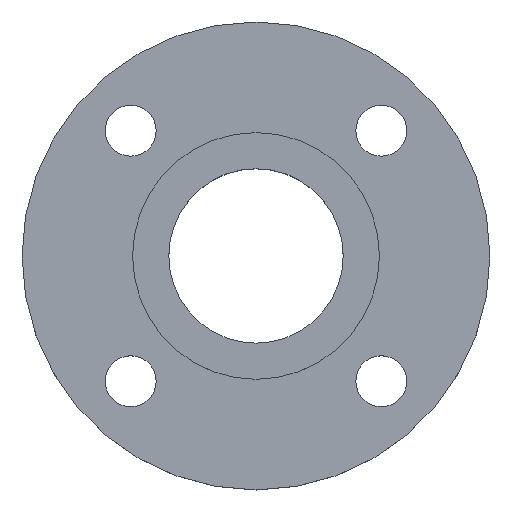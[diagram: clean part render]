
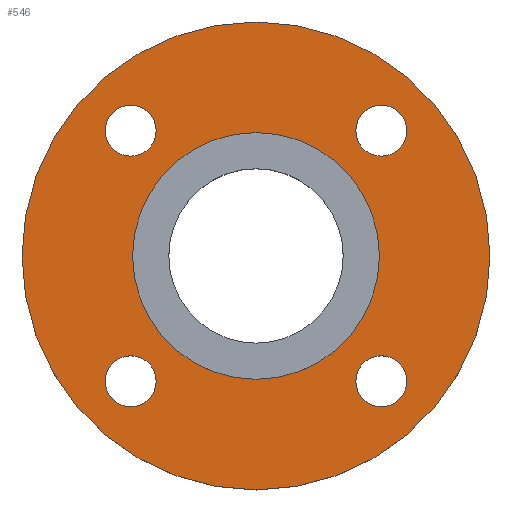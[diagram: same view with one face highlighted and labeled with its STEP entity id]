
A CAD part, top view. The second image highlights one B-rep face of the part: STEP entity #546.
In plain terms, the highlighted planar face has unit normal (0, 0, 1).
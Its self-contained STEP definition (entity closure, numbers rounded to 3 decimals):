
#11 = DIRECTION ( 'NONE',  ( -1., 0., 0. ) ) ;
#12 = DIRECTION ( 'NONE',  ( 0., 0., -1. ) ) ;
#13 = CARTESIAN_POINT ( 'NONE',  ( 0., 0., -4.5 ) ) ;
#42 = DIRECTION ( 'NONE',  ( 1., 0., 0. ) ) ;
#43 = DIRECTION ( 'NONE',  ( 0., 0., -1. ) ) ;
#45 = CIRCLE ( 'NONE', #46, 9. ) ;
#46 = AXIS2_PLACEMENT_3D ( 'NONE', #281, #279, #278 ) ;
#48 = CARTESIAN_POINT ( 'NONE',  ( -44.194, -44.194, -4.5 ) ) ;
#66 = DIRECTION ( 'NONE',  ( 1., 0., 0. ) ) ;
#68 = DIRECTION ( 'NONE',  ( 0., 0., -1. ) ) ;
#69 = CARTESIAN_POINT ( 'NONE',  ( -44.194, 44.194, -4.5 ) ) ;
#70 = DIRECTION ( 'NONE',  ( 1., 0., 0. ) ) ;
#71 = DIRECTION ( 'NONE',  ( 0., 0., 1. ) ) ;
#72 = CARTESIAN_POINT ( 'NONE',  ( 43.5, 0., -4.5 ) ) ;
#73 = PLANE ( 'NONE',  #141 ) ;
#75 = FACE_OUTER_BOUND ( 'NONE', #441, .T. ) ;
#76 = FACE_BOUND ( 'NONE', #419, .T. ) ;
#78 = FACE_BOUND ( 'NONE', #383, .T. ) ;
#81 = FACE_BOUND ( 'NONE', #389, .T. ) ;
#82 = CIRCLE ( 'NONE', #84, 9. ) ;
#83 = FACE_BOUND ( 'NONE', #373, .T. ) ;
#84 = AXIS2_PLACEMENT_3D ( 'NONE', #202, #201, #200 ) ;
#85 = FACE_BOUND ( 'NONE', #382, .T. ) ;
#99 = CIRCLE ( 'NONE', #105, 9. ) ;
#105 = AXIS2_PLACEMENT_3D ( 'NONE', #174, #173, #172 ) ;
#109 = DIRECTION ( 'NONE',  ( -1., 0., 0. ) ) ;
#110 = DIRECTION ( 'NONE',  ( 0., 0., -1. ) ) ;
#111 = CARTESIAN_POINT ( 'NONE',  ( 0., 0., -4.5 ) ) ;
#112 = DIRECTION ( 'NONE',  ( -1., 0., 0. ) ) ;
#113 = DIRECTION ( 'NONE',  ( 0., 0., -1. ) ) ;
#115 = CARTESIAN_POINT ( 'NONE',  ( 0., 0., -4.5 ) ) ;
#117 = CIRCLE ( 'NONE', #118, 82.5 ) ;
#118 = AXIS2_PLACEMENT_3D ( 'NONE', #115, #113, #112 ) ;
#119 = CIRCLE ( 'NONE', #126, 82.5 ) ;
#120 = CARTESIAN_POINT ( 'NONE',  ( -82.5, 0., -4.5 ) ) ;
#121 = CARTESIAN_POINT ( 'NONE',  ( -35.194, 44.194, -4.5 ) ) ;
#122 = CARTESIAN_POINT ( 'NONE',  ( -53.194, 44.194, -4.5 ) ) ;
#126 = AXIS2_PLACEMENT_3D ( 'NONE', #111, #110, #109 ) ;
#132 = CARTESIAN_POINT ( 'NONE',  ( 35.194, -44.194, -4.5 ) ) ;
#141 = AXIS2_PLACEMENT_3D ( 'NONE', #72, #71, #70 ) ;
#143 = CARTESIAN_POINT ( 'NONE',  ( 82.5, 0., -4.5 ) ) ;
#144 = CARTESIAN_POINT ( 'NONE',  ( 35.194, 44.194, -4.5 ) ) ;
#146 = CIRCLE ( 'NONE', #153, 9. ) ;
#147 = CARTESIAN_POINT ( 'NONE',  ( 53.194, -44.194, -4.5 ) ) ;
#151 = EDGE_CURVE ( 'NONE', #463, #472, #313, .T. ) ;
#153 = AXIS2_PLACEMENT_3D ( 'NONE', #69, #68, #66 ) ;
#157 = CIRCLE ( 'NONE', #160, 9. ) ;
#159 = CARTESIAN_POINT ( 'NONE',  ( 43.5, 0., -4.5 ) ) ;
#160 = AXIS2_PLACEMENT_3D ( 'NONE', #48, #43, #42 ) ;
#166 = CARTESIAN_POINT ( 'NONE',  ( -35.194, -44.194, -4.5 ) ) ;
#169 = CARTESIAN_POINT ( 'NONE',  ( 53.194, 44.194, -4.5 ) ) ;
#172 = DIRECTION ( 'NONE',  ( 1., 0., 0. ) ) ;
#173 = DIRECTION ( 'NONE',  ( 0., 0., -1. ) ) ;
#174 = CARTESIAN_POINT ( 'NONE',  ( 44.194, -44.194, -4.5 ) ) ;
#186 = CIRCLE ( 'NONE', #188, 43.5 ) ;
#188 = AXIS2_PLACEMENT_3D ( 'NONE', #13, #12, #11 ) ;
#190 = EDGE_CURVE ( 'NONE', #486, #484, #288, .T. ) ;
#200 = DIRECTION ( 'NONE',  ( 1., 0., 0. ) ) ;
#201 = DIRECTION ( 'NONE',  ( 0., 0., -1. ) ) ;
#202 = CARTESIAN_POINT ( 'NONE',  ( -44.194, -44.194, -4.5 ) ) ;
#207 = CIRCLE ( 'NONE', #209, 43.5 ) ;
#209 = AXIS2_PLACEMENT_3D ( 'NONE', #297, #549, #401 ) ;
#220 = EDGE_CURVE ( 'NONE', #472, #463, #246, .T. ) ;
#223 = CARTESIAN_POINT ( 'NONE',  ( -53.194, -44.194, -4.5 ) ) ;
#245 = AXIS2_PLACEMENT_3D ( 'NONE', #333, #331, #329 ) ;
#246 = CIRCLE ( 'NONE', #245, 9. ) ;
#268 = CARTESIAN_POINT ( 'NONE',  ( -43.5, 0., -4.5 ) ) ;
#278 = DIRECTION ( 'NONE',  ( 1., 0., 0. ) ) ;
#279 = DIRECTION ( 'NONE',  ( 0., 0., -1. ) ) ;
#281 = CARTESIAN_POINT ( 'NONE',  ( 44.194, -44.194, -4.5 ) ) ;
#287 = AXIS2_PLACEMENT_3D ( 'NONE', #380, #347, #352 ) ;
#288 = CIRCLE ( 'NONE', #287, 9. ) ;
#297 = CARTESIAN_POINT ( 'NONE',  ( 0., 0., -4.5 ) ) ;
#308 = AXIS2_PLACEMENT_3D ( 'NONE', #351, #426, #393 ) ;
#313 = CIRCLE ( 'NONE', #308, 9. ) ;
#329 = DIRECTION ( 'NONE',  ( 1., 0., 0. ) ) ;
#331 = DIRECTION ( 'NONE',  ( 0., 0., -1. ) ) ;
#333 = CARTESIAN_POINT ( 'NONE',  ( 44.194, 44.194, -4.5 ) ) ;
#347 = DIRECTION ( 'NONE',  ( 0., 0., -1. ) ) ;
#351 = CARTESIAN_POINT ( 'NONE',  ( 44.194, 44.194, -4.5 ) ) ;
#352 = DIRECTION ( 'NONE',  ( 1., 0., 0. ) ) ;
#361 = EDGE_CURVE ( 'NONE', #471, #479, #45, .T. ) ;
#373 = EDGE_LOOP ( 'NONE', ( #535, #536 ) ) ;
#380 = CARTESIAN_POINT ( 'NONE',  ( -44.194, 44.194, -4.5 ) ) ;
#382 = EDGE_LOOP ( 'NONE', ( #533, #534 ) ) ;
#383 = EDGE_LOOP ( 'NONE', ( #541, #542 ) ) ;
#389 = EDGE_LOOP ( 'NONE', ( #538, #540 ) ) ;
#393 = DIRECTION ( 'NONE',  ( 1., 0., 0. ) ) ;
#401 = DIRECTION ( 'NONE',  ( -1., 0., 0. ) ) ;
#406 = VERTEX_POINT ( 'NONE', #268 ) ;
#419 = EDGE_LOOP ( 'NONE', ( #557, #560 ) ) ;
#425 = VERTEX_POINT ( 'NONE', #223 ) ;
#426 = DIRECTION ( 'NONE',  ( 0., 0., -1. ) ) ;
#441 = EDGE_LOOP ( 'NONE', ( #561, #562 ) ) ;
#442 = EDGE_CURVE ( 'NONE', #464, #425, #82, .T. ) ;
#457 = EDGE_CURVE ( 'NONE', #479, #471, #99, .T. ) ;
#463 = VERTEX_POINT ( 'NONE', #169 ) ;
#464 = VERTEX_POINT ( 'NONE', #166 ) ;
#466 = VERTEX_POINT ( 'NONE', #159 ) ;
#471 = VERTEX_POINT ( 'NONE', #147 ) ;
#472 = VERTEX_POINT ( 'NONE', #144 ) ;
#473 = VERTEX_POINT ( 'NONE', #143 ) ;
#479 = VERTEX_POINT ( 'NONE', #132 ) ;
#484 = VERTEX_POINT ( 'NONE', #122 ) ;
#486 = VERTEX_POINT ( 'NONE', #121 ) ;
#488 = VERTEX_POINT ( 'NONE', #120 ) ;
#497 = EDGE_CURVE ( 'NONE', #473, #488, #117, .T. ) ;
#504 = EDGE_CURVE ( 'NONE', #488, #473, #119, .T. ) ;
#533 = ORIENTED_EDGE ( 'NONE', *, *, #361, .T. ) ;
#534 = ORIENTED_EDGE ( 'NONE', *, *, #457, .T. ) ;
#535 = ORIENTED_EDGE ( 'NONE', *, *, #442, .T. ) ;
#536 = ORIENTED_EDGE ( 'NONE', *, *, #552, .T. ) ;
#538 = ORIENTED_EDGE ( 'NONE', *, *, #190, .T. ) ;
#540 = ORIENTED_EDGE ( 'NONE', *, *, #547, .T. ) ;
#541 = ORIENTED_EDGE ( 'NONE', *, *, #151, .T. ) ;
#542 = ORIENTED_EDGE ( 'NONE', *, *, #220, .T. ) ;
#546 = ADVANCED_FACE ( 'NONE', ( #85, #83, #81, #78, #76, #75 ), #73, .T. ) ;
#547 = EDGE_CURVE ( 'NONE', #484, #486, #146, .T. ) ;
#549 = DIRECTION ( 'NONE',  ( 0., 0., -1. ) ) ;
#552 = EDGE_CURVE ( 'NONE', #425, #464, #157, .T. ) ;
#557 = ORIENTED_EDGE ( 'NONE', *, *, #582, .T. ) ;
#560 = ORIENTED_EDGE ( 'NONE', *, *, #572, .T. ) ;
#561 = ORIENTED_EDGE ( 'NONE', *, *, #497, .F. ) ;
#562 = ORIENTED_EDGE ( 'NONE', *, *, #504, .F. ) ;
#572 = EDGE_CURVE ( 'NONE', #466, #406, #186, .T. ) ;
#582 = EDGE_CURVE ( 'NONE', #406, #466, #207, .T. ) ;
